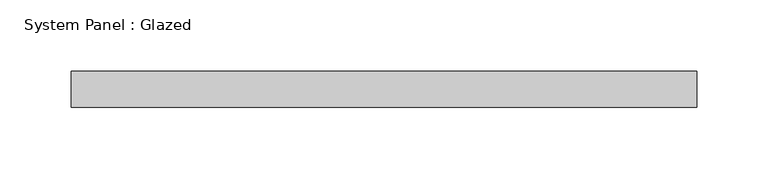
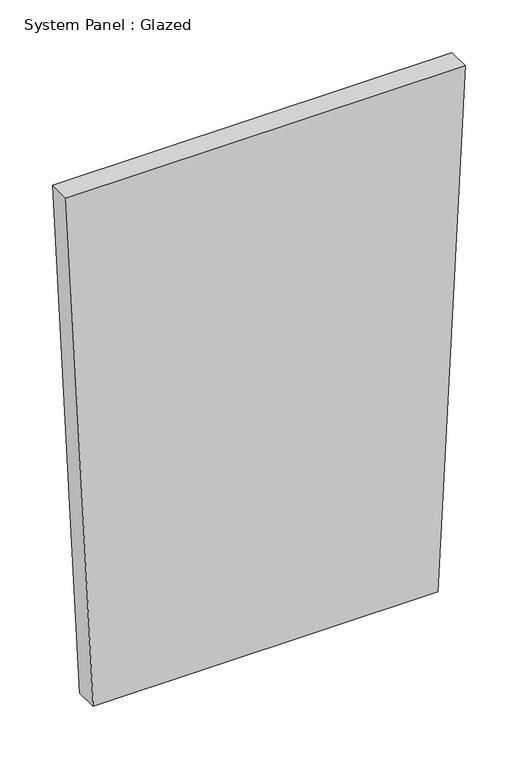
"""IFC4 building model written with IfcOpenShell, lengths in millimetres: plate geometry, System Panel : Glazed."""

from ifc_helpers import new_model, si_unit, frame, origin, place, context, project, spatial, polyline, outline, extrude, source, transform, mapped, element, save


def system_panel_glazed_7c4f69a4(model_context):
    return source(origin(), model_context, "Body", "SweptSolid", [
        extrude(outline(polyline([(0.0, -189.1850061), (0.0, 189.1850061), (599.2537059, 219.1014895), (599.2537059, -219.1014895), (0.0, -189.1850061)])), frame((0.0, 24.5, 0.0), z_axis=(0.0, 1.0, 0.0), x_axis=(0.0, 0.0, 1.0)), (0.0, 0.0, 1.0), 25.0),
    ])


if __name__ == "__main__":
    model = new_model("IFC4")
    model_context = context("Model", 3, world=origin())
    ifc_project = project(units=[si_unit("LENGTHUNIT", "METRE", prefix="MILLI")], contexts=[model_context])
    site = spatial("IfcSite", under=ifc_project)
    building = spatial("IfcBuilding", under=site)
    placement = place(None, origin())
    system_panel_glazed_shape = system_panel_glazed_7c4f69a4(model_context)
    element("IfcPlate", 1, ObjectType="System Panel : Glazed", at=placement, inside=building, context=model_context, shape_type="MappedRepresentation", body=[
        mapped(system_panel_glazed_shape, transform((0.0, 0.0, 0.0), x_axis=(1.0, 0.0, 0.0), y_axis=(0.0, 1.0, 0.0), z_axis=(0.0, 0.0, 1.0))),
    ])
    save(model, "model.ifc")
